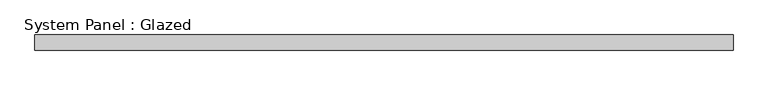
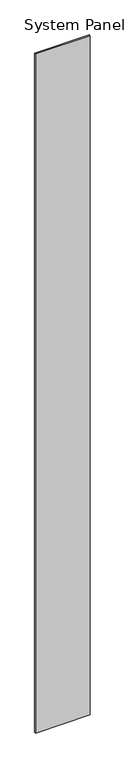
"""IFC4 building model written with IfcOpenShell, lengths in millimetres: plate geometry, System Panel : Glazed."""

import ifcopenshell
import ifcopenshell.guid

model = None  # the IFC model being written
_history = None  # IfcOwnerHistory: only IFC2X3 demands one
_inside = {}  # id of a spatial element -> (the spatial element, [elements in it])
_under = {}  # id of a project, library or spatial element -> (it, [spatial elements below it])
_declared = {}  # id of a project -> (the project, [libraries it declares])
_typed = {}  # id of a type object -> (the type object, [elements of that type])
_made_of = {}  # id of a material, layer set ... -> (it, [elements and type objects made of it])


def new_model(schema):
    """Start an empty IFC model of exactly this schema.

    Asked for "IFC4X3", IfcOpenShell would pick the latest addendum, in which some entities
    have other attributes; the version numbers below select the first issue.
    IFC2X3 requires an IfcOwnerHistory on every rooted entity: one is made here for all.
    """
    global model, _history
    if schema == "IFC4X3":
        model = ifcopenshell.file(schema_version=(4, 3, 0, 0))
    else:
        model = ifcopenshell.file(schema=schema)
    _inside.clear()
    _under.clear()
    _declared.clear()
    _typed.clear()
    _made_of.clear()
    _history = None
    if model.schema == "IFC2X3":
        org = make("IfcOrganization", Name="unknown")
        user = make(
            "IfcPersonAndOrganization",
            ThePerson=make("IfcPerson", FamilyName="unknown"),
            TheOrganization=org,
        )
        app = make(
            "IfcApplication",
            ApplicationDeveloper=org,
            Version="unknown",
            ApplicationFullName="unknown",
            ApplicationIdentifier="unknown",
        )
        _history = make(
            "IfcOwnerHistory",
            OwningUser=user,
            OwningApplication=app,
            ChangeAction="ADDED",
            CreationDate=0,
        )
    return model


def make(cls, **values):
    """One entity of the class cls with the attributes given. An attribute that is None is left unset."""
    return model.create_entity(
        cls, **{name: value for name, value in values.items() if value is not None}
    )


def rooted(cls, **values):
    """An entity with a GlobalId (a new one), such as an element, a storey or a relation."""
    return make(cls, GlobalId=ifcopenshell.guid.new(), OwnerHistory=_history, **values)


def si_unit(unit_type, name, prefix=None):
    """IfcSIUnit, for example si_unit("LENGTHUNIT", "METRE", prefix="MILLI")."""
    return make("IfcSIUnit", UnitType=unit_type, Prefix=prefix, Name=name)


def assignment(units):
    """IfcUnitAssignment: the units of a project."""
    return None if units is None else make("IfcUnitAssignment", Units=units)


def point(xyz):
    """IfcCartesianPoint."""
    return None if xyz is None else make("IfcCartesianPoint", Coordinates=xyz)


def direction(xyz):
    """IfcDirection."""
    return None if xyz is None else make("IfcDirection", DirectionRatios=xyz)


def frame(location, z_axis=None, x_axis=None):
    """IfcAxis2Placement3D, a coordinate frame: its origin and axes. An axis left out is left unset."""
    return make(
        "IfcAxis2Placement3D",
        Location=point(location),
        Axis=direction(z_axis),
        RefDirection=direction(x_axis),
    )


def origin():
    """The frame at (0, 0, 0) with its axes left unset."""
    return frame((0.0, 0.0, 0.0))


def origin_with_axes():
    """The frame at (0, 0, 0) with the z axis (0, 0, 1) and the x axis (1, 0, 0) written out."""
    return frame((0.0, 0.0, 0.0), z_axis=(0.0, 0.0, 1.0), x_axis=(1.0, 0.0, 0.0))


def place(relative_to, where):
    """IfcLocalPlacement: puts the frame where relative to a parent placement (None: the world)."""
    return make(
        "IfcLocalPlacement", PlacementRelTo=relative_to, RelativePlacement=where
    )


def context(
    kind, dimensions, precision=None, world=None, true_north=None, identifier=None
):
    """IfcGeometricRepresentationContext, for example the 3D "Model" context."""
    return make(
        "IfcGeometricRepresentationContext",
        ContextIdentifier=identifier,
        ContextType=kind,
        CoordinateSpaceDimension=dimensions,
        Precision=precision,
        WorldCoordinateSystem=world,
        TrueNorth=true_north,
    )


def project(units=None, contexts=None):
    """IfcProject with its units and contexts."""
    return rooted(
        "IfcProject",
        Name="project",
        RepresentationContexts=contexts,
        UnitsInContext=assignment(units),
    )


def spatial(cls, under=None, at=None, **own):
    """A site, building, storey or space (cls), placed at a placement, below another one or the project."""
    s = rooted(cls, ObjectPlacement=at, **own)
    if under is not None:
        _under.setdefault(under.id(), (under, []))[1].append(s)
    return s


def polyline(points):
    """IfcPolyline through the points."""
    return make("IfcPolyline", Points=[point(p) for p in points])


def outline(outer, holes=None, kind="AREA"):
    """IfcArbitraryClosedProfileDef: a profile drawn as a closed curve; with holes, ...WithVoids."""
    if holes is None:
        return make("IfcArbitraryClosedProfileDef", ProfileType=kind, OuterCurve=outer)
    return make(
        "IfcArbitraryProfileDefWithVoids",
        ProfileType=kind,
        OuterCurve=outer,
        InnerCurves=holes,
    )


def extrude(swept, where, along, depth):
    """IfcExtrudedAreaSolid: the profile swept, set in the frame where, extruded along a direction by depth."""
    return make(
        "IfcExtrudedAreaSolid",
        SweptArea=swept,
        Position=where,
        ExtrudedDirection=direction(along),
        Depth=depth,
    )


def shape(context_of_items, identifier, shape_type, items):
    """IfcShapeRepresentation: the items that make up one representation, for example the "Body"."""
    return make(
        "IfcShapeRepresentation",
        ContextOfItems=context_of_items,
        RepresentationIdentifier=identifier,
        RepresentationType=shape_type,
        Items=items,
    )


def source(mapping_origin, context_of_items, identifier, shape_type, items):
    """IfcRepresentationMap: a shape defined once, which mapped items show again and again."""
    return make(
        "IfcRepresentationMap",
        MappingOrigin=mapping_origin,
        MappedRepresentation=shape(context_of_items, identifier, shape_type, items),
    )


def transform(
    local_origin,
    x_axis=None,
    y_axis=None,
    z_axis=None,
    scale=None,
    scale2=None,
    scale3=None,
    uniform=True,
):
    """IfcCartesianTransformationOperator3D, or its non-uniform kind. x_axis, y_axis, z_axis: its Axis1, 2, 3."""
    if uniform:
        return make(
            "IfcCartesianTransformationOperator3D",
            Axis1=direction(x_axis),
            Axis2=direction(y_axis),
            LocalOrigin=point(local_origin),
            Scale=scale,
            Axis3=direction(z_axis),
        )
    return make(
        "IfcCartesianTransformationOperator3DnonUniform",
        Axis1=direction(x_axis),
        Axis2=direction(y_axis),
        LocalOrigin=point(local_origin),
        Scale=scale,
        Axis3=direction(z_axis),
        Scale2=scale2,
        Scale3=scale3,
    )


def mapped(mapping_source, mapping_target):
    """IfcMappedItem: shows the shape of a source again, moved by a transform."""
    return make(
        "IfcMappedItem", MappingSource=mapping_source, MappingTarget=mapping_target
    )


def made_of(thing, what):
    """Note that an element or type object is made of a material, layer set ...; save() writes the relation."""
    if what is not None:
        _made_of.setdefault(what.id(), (what, []))[1].append(thing)
    return thing


def element(
    cls,
    number,
    at=None,
    inside=None,
    cuts=None,
    type_object=None,
    material=None,
    context=None,
    identifier="Body",
    shape_type=None,
    held_by="IfcProductDefinitionShape",
    body=None,
    shapes=None,
    **own,
):
    """One element of the class cls, such as IfcWall. Its Tag is "e" and its number.

    at: its placement. inside: the storey or other place that contains it. cuts: it is an
    opening in that element (IfcRelVoidsElement). A single representation is given by context,
    identifier, shape_type and body (its items); several are given by shapes. held_by: the class
    of the entity that holds the representations. save() writes the other relations.
    """
    e = rooted(cls, Tag="e%d" % number, ObjectPlacement=at, **own)
    if body is not None:
        shapes = [shape(context, identifier, shape_type, body)]
    if shapes is not None:
        e.Representation = make(held_by, Representations=shapes)
    if inside is not None:
        _inside.setdefault(inside.id(), (inside, []))[1].append(e)
    if cuts is not None:
        rooted(
            "IfcRelVoidsElement", RelatingBuildingElement=cuts, RelatedOpeningElement=e
        )
    if type_object is not None:
        _typed.setdefault(type_object.id(), (type_object, []))[1].append(e)
    return made_of(e, material)


def aggregate(whole, parts):
    """IfcRelAggregates: a whole, such as a stair, and the parts it consists of."""
    return rooted("IfcRelAggregates", RelatingObject=whole, RelatedObjects=parts)


def save(model, path):
    """Write the relations noted so far, then the file.

    IfcRelAggregates (storeys below a building ...), IfcRelContainedInSpatialStructure (elements
    in a storey), IfcRelDefinesByType, IfcRelAssociatesMaterial and IfcRelDeclares: one each for
    every whole, place, type object, material and project.
    """
    for whole, parts in _under.values():
        aggregate(whole, parts)
    for where, things in _inside.values():
        rooted(
            "IfcRelContainedInSpatialStructure",
            RelatedElements=things,
            RelatingStructure=where,
        )
    for kind, things in _typed.values():
        rooted("IfcRelDefinesByType", RelatedObjects=things, RelatingType=kind)
    for what, things in _made_of.values():
        rooted("IfcRelAssociatesMaterial", RelatedObjects=things, RelatingMaterial=what)
    for by, libraries in _declared.values():
        rooted("IfcRelDeclares", RelatingContext=by, RelatedDefinitions=libraries)
    model.write(path)


def system_panel_glazed_1400d148(model_context):
    return source(origin(), model_context, "Body", "SweptSolid", [
        extrude(outline(polyline([(569.3200969, 19.05), (-569.3200969, 19.05), (-569.3200969, 44.45), (569.3200969, 44.45), (569.3200969, 19.05)])), origin_with_axes(), (0.0, 0.0, 1.0), 14960.6),
    ])


if __name__ == "__main__":
    model = new_model("IFC4")
    model_context = context("Model", 3, world=origin())
    ifc_project = project(units=[si_unit("LENGTHUNIT", "METRE", prefix="MILLI")], contexts=[model_context])
    site = spatial("IfcSite", under=ifc_project)
    building = spatial("IfcBuilding", under=site)
    placement = place(None, origin())
    system_panel_glazed_shape = system_panel_glazed_1400d148(model_context)
    element("IfcPlate", 1, ObjectType="System Panel : Glazed", at=placement, inside=building, context=model_context, shape_type="MappedRepresentation", body=[
        mapped(system_panel_glazed_shape, transform((0.0, 0.0, 0.0), x_axis=(1.0, 0.0, 0.0), y_axis=(0.0, 1.0, 0.0), z_axis=(0.0, 0.0, 1.0))),
    ])
    save(model, "model.ifc")
